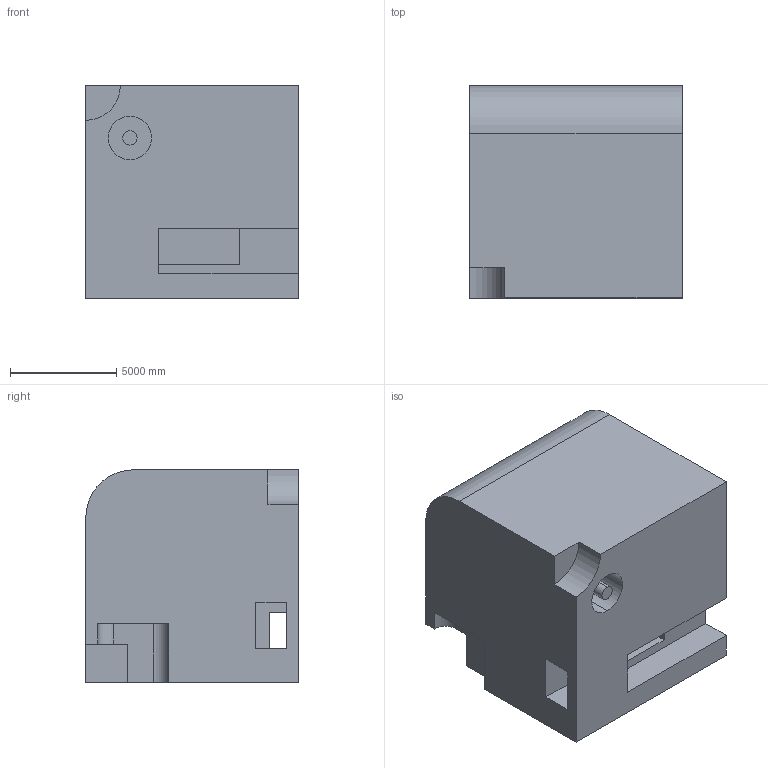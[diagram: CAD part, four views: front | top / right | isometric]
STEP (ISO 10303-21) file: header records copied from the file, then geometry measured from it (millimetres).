
FILE_DESCRIPTION (( 'STEP AP203' ), '1' );
FILE_NAME ('357.STEP', '2022-09-07T15:22:09', ( 'user' ), ( '' ), 'SwSTEP 2.0', 'SolidWorks 2021', '' );
FILE_SCHEMA (( 'CONFIG_CONTROL_DESIGN' ));
Length unit declared in the file: centimetre
Products named in the file (1): 357
Bounding box: 10000 x 10000 x 10000 mm (x, y, z)
Volume: 901235533254.2 mm3; surface area: 684213744.6 mm2
Topology: 1 solids, 1 shells, 38 faces, 102 edges, 68 vertices
Faces by surface type: plane 30, cylinder 8
Entity records: 1263 total; most frequent: CARTESIAN_POINT 209, ORIENTED_EDGE 204, DIRECTION 196, EDGE_CURVE 102, LINE 86, VECTOR 86, VERTEX_POINT 68, AXIS2_PLACEMENT_3D 55
